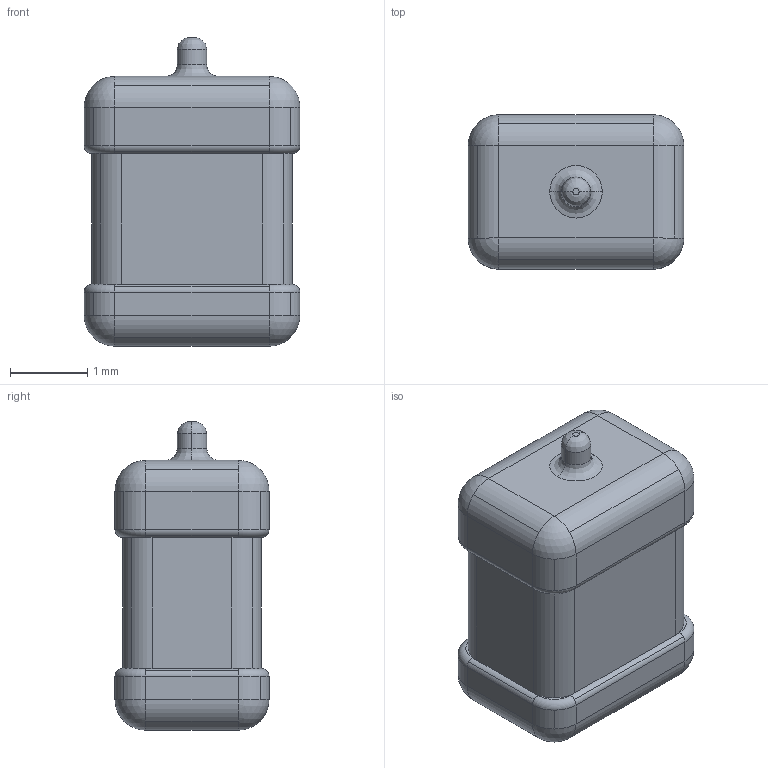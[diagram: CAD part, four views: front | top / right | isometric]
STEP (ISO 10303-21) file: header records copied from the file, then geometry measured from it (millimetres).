
FILE_DESCRIPTION((''),'2;1');
FILE_NAME('591D_B-case_20H.stp','2019-05-02T10:53:34',(''),(''),'AutoCAD STEP 2000i','AutoCAD 2000i',', , ');
FILE_SCHEMA(('CONFIG_CONTROL_DESIGN'));
Length unit declared in the file: millimetre
Products named in the file (2): 591D_B-CASE_20H; MODEL
Assembly tree (1 placements, depth 2):
  591D_B-CASE_20H
    MODEL
Bounding box: 2.8 x 2 x 4 mm (x, y, z)
Volume: 17 mm3; surface area: 39.1 mm2
Topology: 1 solids, 1 shells, 101 faces, 242 edges, 136 vertices
Faces by surface type: cylinder 58, plane 23, torus 8, sphere 8, bspline 4
Entity records: 3129 total; most frequent: CARTESIAN_POINT 649, DIRECTION 564, ORIENTED_EDGE 468, EDGE_CURVE 234, AXIS2_PLACEMENT_3D 231, VERTEX_POINT 136, CIRCLE 132, VECTOR 102
